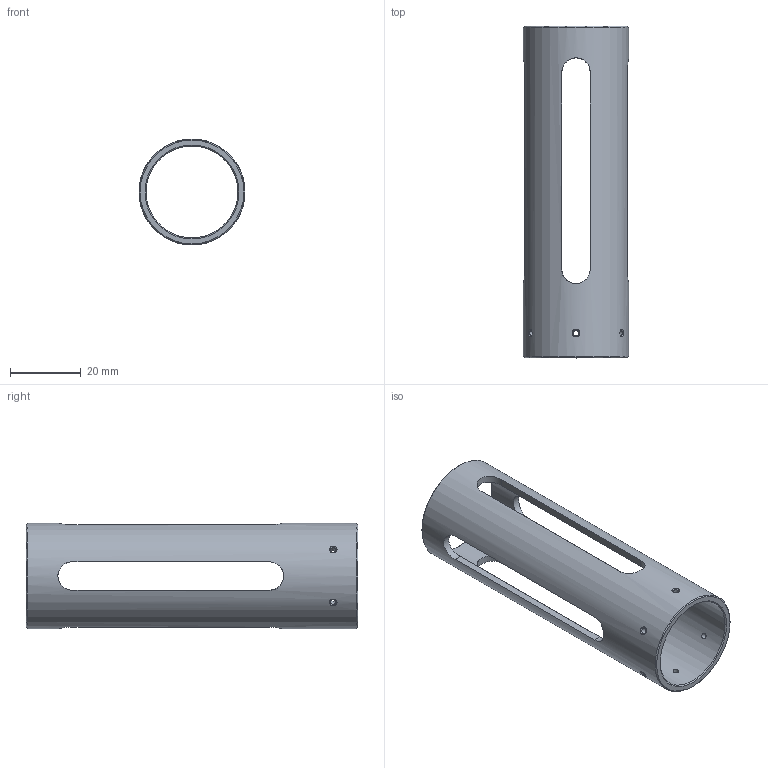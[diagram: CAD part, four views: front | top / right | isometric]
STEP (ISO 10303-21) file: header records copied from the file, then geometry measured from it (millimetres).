
FILE_DESCRIPTION(/* description */ ('Unknown'),/* implementation_level */ '2;1');
FILE_NAME(/* name */ 'SFP-SRX',/* time_stamp */ '2023-12-05T12:13:54-05:00',/* author */ ('Unknown'),/* organization */ ('Unknown'),/* preprocessor_version */ 'ST-DEVELOPER v16.7',/* originating_system */ 'Solid Edge',/* authorisation */ 'Unknown');
FILE_SCHEMA (('CONFIG_CONTROL_DESIGN'));
Length unit declared in the file: millimetre
Products named in the file (1): SPS-SRX
Bounding box: 30 x 94 x 30 mm (x, y, z)
Volume: 12456.1 mm3; surface area: 13957.5 mm2
Topology: 1 solids, 1 shells, 36 faces, 108 edges, 70 vertices
Faces by surface type: cylinder 16, plane 10, bspline 6, cone 4
Full cylindrical faces by diameter (mm): 1.567 x6, 26 x1, 30 x1
Entity records: 1807 total; most frequent: CARTESIAN_POINT 768, ORIENTED_EDGE 148, DIRECTION 110, EDGE_LOOP 76, FACE_BOUND 76, EDGE_CURVE 74, VERTEX_POINT 58, AXIS2_PLACEMENT_3D 39
